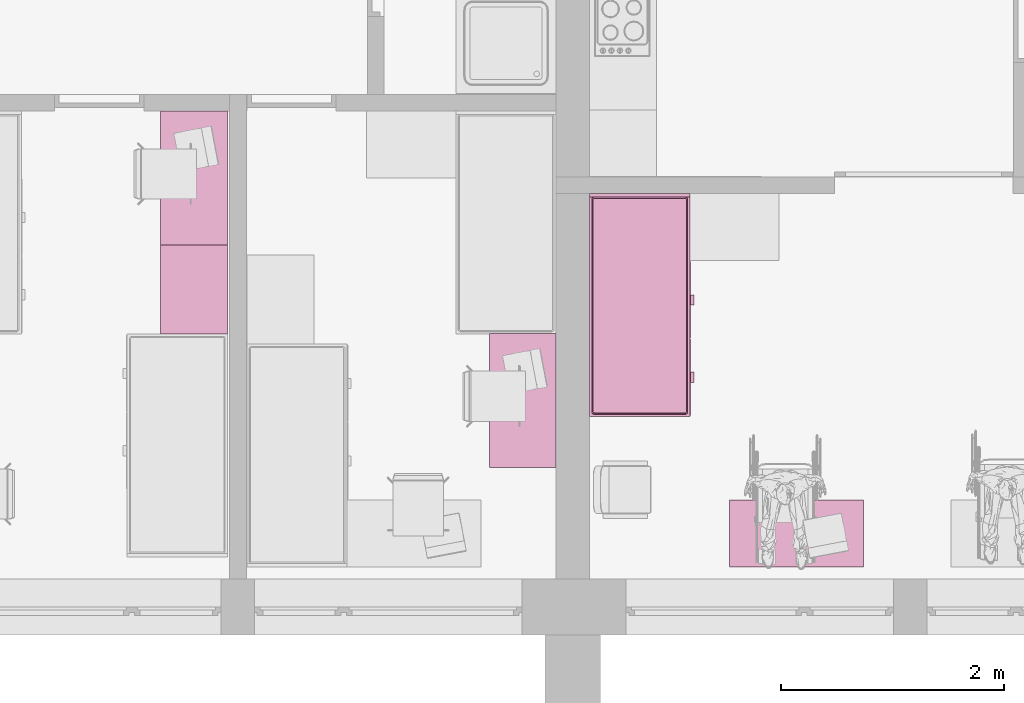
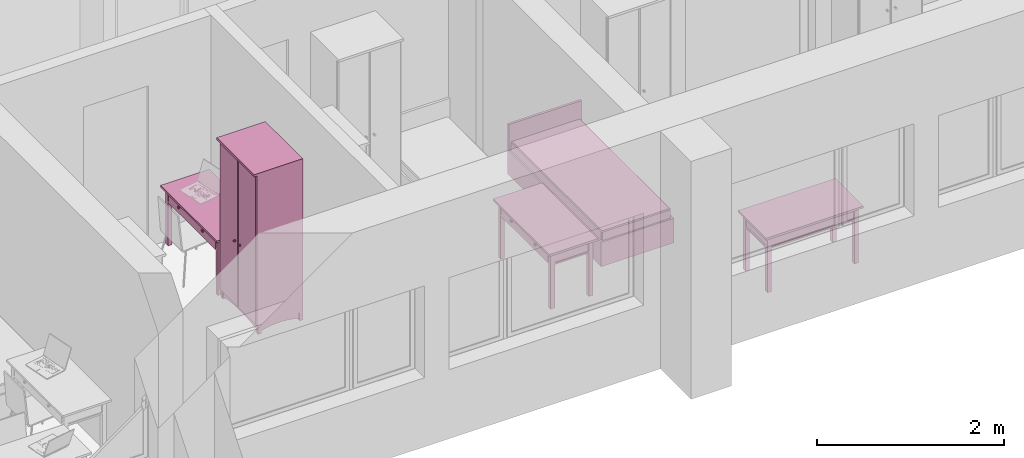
# One storey, part 117 of 172: 5 furnishings.
"""IFC2X3 building model written with IfcOpenShell, lengths in millimetres."""

from ifc_helpers import new_model, entity, si_unit, converted_unit, money_unit, direction, frame, origin_with_axes, place, context, subcontext, project, spatial, faceted_brep, source, transform, mapped, material, material_list, type_object, element, save


model = new_model("IFC2X3")

# Units and contexts
model_context = context("Model", 3, precision=1e-05, world=origin_with_axes(), true_north=direction((0.0, 1.0)))
body_context = subcontext(model_context, "Body", "Model", "MODEL_VIEW")
ifc_project = project(units=[si_unit("LENGTHUNIT", "METRE", prefix="MILLI"), si_unit("AREAUNIT", "SQUARE_METRE"), si_unit("VOLUMEUNIT", "CUBIC_METRE"), converted_unit("PLANEANGLEUNIT", "DEGREE", entity("IfcPlaneAngleMeasure", 0.0174532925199), si_unit("PLANEANGLEUNIT", "RADIAN"), dimensions=[0, 0, 0, 0, 0, 0, 0]), si_unit("SOLIDANGLEUNIT", "STERADIAN"), money_unit("USD"), converted_unit("TIMEUNIT", "Year", entity("IfcTimeMeasure", 31556926.0), si_unit("TIMEUNIT", "SECOND"), dimensions=[0, 0, 0, 0, 0, 0, 0]), si_unit("MASSUNIT", "GRAM"), si_unit("THERMODYNAMICTEMPERATUREUNIT", "DEGREE_CELSIUS"), si_unit("LUMINOUSINTENSITYUNIT", "LUMEN")], contexts=[model_context])

# Site, building, storey
site_placement = place(None, origin_with_axes())
site = spatial("IfcSite", under=ifc_project, at=site_placement, Name="Site", CompositionType="ELEMENT")
building_placement = place(site_placement, origin_with_axes())
building = spatial("IfcBuilding", under=site, at=building_placement, Name="Building", CompositionType="ELEMENT")
storey_placement = place(building_placement, frame((0.0, 0.0, 3200.0), z_axis=(0.0, 0.0, 1.0), x_axis=(1.0, 0.0, 0.0)))
storey = spatial("IfcBuildingStorey", under=building, at=storey_placement, Name="3KORRUS", CompositionType="ELEMENT", Elevation=3200.0)

# Furnishings
ifc_material = material(Name="Background")
ifc_material_list = material_list([ifc_material])
furnishing_element_type_1 = type_object("IfcFurnishingElementType", Name="Bed 19")
shared_shape_1 = source(origin_with_axes(), body_context, "Body", "Brep", [
    faceted_brep([(900.0, 1970.0, 0.0), (0.0, 1970.0, 0.0), (0.0, 2000.0, 0.0), (900.0, 2000.0, 0.0), (900.0, 1970.0, 660.0), (0.0, 1970.0, 660.0), (0.0, 2000.0, 660.0), (900.0, 2000.0, 660.0)], [[[0, 1, 2, 3]], [[1, 0, 4, 5]], [[2, 1, 5, 6]], [[3, 2, 6, 7]], [[0, 3, 7, 4]], [[5, 4, 7, 6]]]),
    faceted_brep([(900.0, 0.0, 0.0), (0.0, 0.0, 0.0), (0.0, 1970.0, 0.0), (900.0, 1970.0, 0.0), (900.0, 0.0, 320.0), (0.0, 0.0, 320.0), (0.0, 1970.0, 320.0), (900.0, 1970.0, 320.0)], [[[0, 1, 2, 3]], [[1, 0, 4, 5]], [[2, 1, 5, 6]], [[3, 2, 6, 7]], [[0, 3, 7, 4]], [[5, 4, 7, 6]]]),
    faceted_brep([(905.0, 10.0, 30.0), (900.0, 10.0, 30.0), (900.0, 695.0, 30.0), (905.0, 695.0, 30.0), (905.0, 10.0, 290.0), (900.0, 10.0, 290.0), (900.0, 695.0, 290.0), (905.0, 695.0, 290.0)], [[[0, 1, 2, 3]], [[1, 0, 4, 5]], [[2, 1, 5, 6]], [[3, 2, 6, 7]], [[0, 3, 7, 4]], [[5, 4, 7, 6]]]),
    faceted_brep([(935.0, 307.5, 150.0), (905.0, 307.5, 150.0), (905.0, 397.5, 150.0), (935.0, 397.5, 150.0), (935.0, 307.5, 170.0), (905.0, 307.5, 170.0), (905.0, 397.5, 170.0), (935.0, 397.5, 170.0)], [[[0, 1, 2, 3]], [[1, 0, 4, 5]], [[2, 1, 5, 6]], [[3, 2, 6, 7]], [[0, 3, 7, 4]], [[5, 4, 7, 6]]]),
    faceted_brep([(905.0, 705.0, 30.0), (900.0, 705.0, 30.0), (900.0, 1390.0, 30.0), (905.0, 1390.0, 30.0), (905.0, 705.0, 290.0), (900.0, 705.0, 290.0), (900.0, 1390.0, 290.0), (905.0, 1390.0, 290.0)], [[[0, 1, 2, 3]], [[1, 0, 4, 5]], [[2, 1, 5, 6]], [[3, 2, 6, 7]], [[0, 3, 7, 4]], [[5, 4, 7, 6]]]),
    faceted_brep([(935.0, 1002.5, 150.0), (905.0, 1002.5, 150.0), (905.0, 1092.5, 150.0), (935.0, 1092.5, 150.0), (935.0, 1002.5, 170.0), (905.0, 1002.5, 170.0), (905.0, 1092.5, 170.0), (935.0, 1092.5, 170.0)], [[[0, 1, 2, 3]], [[1, 0, 4, 5]], [[2, 1, 5, 6]], [[3, 2, 6, 7]], [[0, 3, 7, 4]], [[5, 4, 7, 6]]]),
    faceted_brep([(20.0, 40.0, 350.0), (20.0, 1950.0, 350.0), (21.522, 1957.654, 350.0), (25.858, 1964.142, 350.0), (32.346, 1968.478, 350.0), (40.0, 1970.0, 350.0), (860.0, 1970.0, 350.0), (867.654, 1968.478, 350.0), (874.142, 1964.142, 350.0), (878.478, 1957.654, 350.0), (880.0, 1950.0, 350.0), (880.0, 40.0, 350.0), (878.478, 32.346, 350.0), (874.142, 25.858, 350.0), (867.654, 21.522, 350.0), (860.0, 20.0, 350.0), (40.0, 20.0, 350.0), (32.346, 21.522, 350.0), (25.858, 25.858, 350.0), (21.522, 32.346, 350.0), (20.0, 40.0, 420.0), (20.0, 1950.0, 420.0), (21.522, 1957.654, 420.0), (25.858, 1964.142, 420.0), (32.346, 1968.478, 420.0), (40.0, 1970.0, 420.0), (860.0, 1970.0, 420.0), (867.654, 1968.478, 420.0), (874.142, 1964.142, 420.0), (878.478, 1957.654, 420.0), (880.0, 1950.0, 420.0), (880.0, 40.0, 420.0), (878.478, 32.346, 420.0), (874.142, 25.858, 420.0), (867.654, 21.522, 420.0), (860.0, 20.0, 420.0), (40.0, 20.0, 420.0), (32.346, 21.522, 420.0), (25.858, 25.858, 420.0), (21.522, 32.346, 420.0), (21.522, 40.15, 427.654), (21.522, 1949.85, 427.654), (22.956, 1957.06, 427.654), (26.955, 1963.045, 427.654), (32.94, 1967.044, 427.654), (40.15, 1968.478, 427.654), (859.85, 1968.478, 427.654), (867.06, 1967.044, 427.654), (873.045, 1963.045, 427.654), (877.044, 1957.06, 427.654), (878.478, 1949.85, 427.654), (878.478, 40.15, 427.654), (877.044, 32.94, 427.654), (873.045, 26.955, 427.654), (867.06, 22.956, 427.654), (859.85, 21.522, 427.654), (40.15, 21.522, 427.654), (32.94, 22.956, 427.654), (26.955, 26.955, 427.654), (22.956, 32.94, 427.654), (32.346, 41.216, 438.478), (32.346, 1948.784, 438.478), (33.152, 1952.836, 438.478), (34.759, 1955.241, 438.478), (37.164, 1956.848, 438.478), (41.216, 1957.654, 438.478), (858.784, 1957.654, 438.478), (862.836, 1956.848, 438.478), (865.241, 1955.241, 438.478), (866.848, 1952.836, 438.478), (867.654, 1948.784, 438.478), (867.654, 41.216, 438.478), (866.848, 37.164, 438.478), (865.241, 34.759, 438.478), (862.836, 33.152, 438.478), (858.784, 32.346, 438.478), (41.216, 32.346, 438.478), (37.164, 33.152, 438.478), (34.759, 34.759, 438.478), (33.152, 37.164, 438.478), (40.0, 41.97, 440.0), (40.0, 1948.03, 440.0), (40.327, 1949.673, 440.0), (40.0, 1950.0, 439.924), (41.97, 1950.0, 440.0), (858.03, 1950.0, 440.0), (859.673, 1949.673, 440.0), (860.0, 1950.0, 439.924), (860.0, 1948.03, 440.0), (860.0, 41.97, 440.0), (859.673, 40.327, 440.0), (860.0, 40.0, 439.924), (858.03, 40.0, 440.0), (41.97, 40.0, 440.0), (40.327, 40.327, 440.0), (40.0, 40.0, 439.924)], [[[0, 1, 2, 3, 4, 5, 6, 7, 8, 9, 10, 11, 12, 13, 14, 15, 16, 17, 18, 19]], [[1, 0, 20, 21]], [[2, 1, 21, 22]], [[3, 2, 22, 23]], [[4, 3, 23, 24]], [[5, 4, 24, 25]], [[6, 5, 25, 26]], [[7, 6, 26, 27]], [[8, 7, 27, 28]], [[9, 8, 28, 29]], [[10, 9, 29, 30]], [[11, 10, 30, 31]], [[12, 11, 31, 32]], [[13, 12, 32, 33]], [[14, 13, 33, 34]], [[15, 14, 34, 35]], [[16, 15, 35, 36]], [[17, 16, 36, 37]], [[18, 17, 37, 38]], [[19, 18, 38, 39]], [[0, 19, 39, 20]], [[21, 20, 40, 41]], [[22, 21, 41, 42]], [[23, 22, 42, 43]], [[24, 23, 43, 44]], [[25, 24, 44, 45]], [[26, 25, 45, 46]], [[27, 26, 46, 47]], [[28, 27, 47, 48]], [[29, 28, 48, 49]], [[30, 29, 49, 50]], [[31, 30, 50, 51]], [[32, 31, 51, 52]], [[33, 32, 52, 53]], [[34, 33, 53, 54]], [[35, 34, 54, 55]], [[36, 35, 55, 56]], [[37, 36, 56, 57]], [[38, 37, 57, 58]], [[39, 38, 58, 59]], [[20, 39, 59, 40]], [[41, 40, 60, 61]], [[42, 41, 61, 62]], [[43, 42, 62, 63]], [[44, 43, 63, 64]], [[45, 44, 64, 65]], [[46, 45, 65, 66]], [[47, 46, 66, 67]], [[48, 47, 67, 68]], [[49, 48, 68, 69]], [[50, 49, 69, 70]], [[51, 50, 70, 71]], [[52, 51, 71, 72]], [[53, 52, 72, 73]], [[54, 53, 73, 74]], [[55, 54, 74, 75]], [[56, 55, 75, 76]], [[57, 56, 76, 77]], [[58, 57, 77, 78]], [[59, 58, 78, 79]], [[40, 59, 79, 60]], [[61, 60, 80, 81]], [[62, 61, 81, 82, 83]], [[63, 62, 83]], [[64, 63, 83]], [[65, 64, 83, 82, 84]], [[66, 65, 84, 85]], [[67, 66, 85, 86, 87]], [[68, 67, 87]], [[69, 68, 87]], [[70, 69, 87, 86, 88]], [[71, 70, 88, 89]], [[72, 71, 89, 90, 91]], [[73, 72, 91]], [[74, 73, 91]], [[75, 74, 91, 90, 92]], [[76, 75, 92, 93]], [[77, 76, 93, 94, 95]], [[78, 77, 95]], [[79, 78, 95]], [[60, 79, 95, 94, 80]], [[81, 80, 94, 93, 92, 90, 89, 88, 86, 85, 84, 82]]]),
    faceted_brep([(20.0, 40.0, 350.0), (21.522, 32.346, 350.0), (25.858, 25.858, 350.0), (32.346, 21.522, 350.0), (40.0, 20.0, 350.0), (860.0, 20.0, 350.0), (867.654, 21.522, 350.0), (874.142, 25.858, 350.0), (878.478, 32.346, 350.0), (880.0, 40.0, 350.0), (880.0, 1950.0, 350.0), (878.478, 1957.654, 350.0), (874.142, 1964.142, 350.0), (867.654, 1968.478, 350.0), (860.0, 1970.0, 350.0), (40.0, 1970.0, 350.0), (32.346, 1968.478, 350.0), (25.858, 1964.142, 350.0), (21.522, 1957.654, 350.0), (20.0, 1950.0, 350.0), (20.0, 40.0, 320.0), (21.522, 32.346, 320.0), (25.858, 25.858, 320.0), (32.346, 21.522, 320.0), (40.0, 20.0, 320.0), (860.0, 20.0, 320.0), (867.654, 21.522, 320.0), (874.142, 25.858, 320.0), (878.478, 32.346, 320.0), (880.0, 40.0, 320.0), (880.0, 1950.0, 320.0), (878.478, 1957.654, 320.0), (874.142, 1964.142, 320.0), (867.654, 1968.478, 320.0), (860.0, 1970.0, 320.0), (40.0, 1970.0, 320.0), (32.346, 1968.478, 320.0), (25.858, 1964.142, 320.0), (21.522, 1957.654, 320.0), (20.0, 1950.0, 320.0)], [[[0, 1, 2, 3, 4, 5, 6, 7, 8, 9, 10, 11, 12, 13, 14, 15, 16, 17, 18, 19]], [[0, 20, 21, 1]], [[1, 21, 22, 2]], [[2, 22, 23, 3]], [[3, 23, 24, 4]], [[4, 24, 25, 5]], [[5, 25, 26, 6]], [[6, 26, 27, 7]], [[7, 27, 28, 8]], [[8, 28, 29, 9]], [[9, 29, 30, 10]], [[10, 30, 31, 11]], [[11, 31, 32, 12]], [[12, 32, 33, 13]], [[13, 33, 34, 14]], [[14, 34, 35, 15]], [[15, 35, 36, 16]], [[16, 36, 37, 17]], [[17, 37, 38, 18]], [[18, 38, 39, 19]], [[19, 39, 20, 0]], [[20, 39, 38, 37, 36, 35, 34, 33, 32, 31, 30, 29, 28, 27, 26, 25, 24, 23, 22, 21]]]),
])
furnishing_1_placement = place(storey_placement, frame((-17990.2967033, -18179.7357921, 0.0), z_axis=(0.0, 0.0, 1.0), x_axis=(1.0, 0.0, 0.0)))
element("IfcFurnishingElement", 1, at=furnishing_1_placement, inside=storey, type_object=furnishing_element_type_1, material=ifc_material_list, Name="FU - 013", context=body_context, shape_type="MappedRepresentation", body=[
    mapped(shared_shape_1, transform((0.0, 0.0, 0.0))),
])
furnishing_element_type_2 = type_object("IfcFurnishingElementType", Name="Cupboard 19")
shared_shape_2 = source(origin_with_axes(), body_context, "Body", "Brep", [
    faceted_brep([(780.0, 600.0, 120.0), (780.0, 600.0, 2050.0), (780.0, 580.0, 2050.0), (780.0, 580.0, 120.0), (20.0, 600.0, 120.0), (20.0, 600.0, 2050.0), (20.0, 580.0, 2050.0), (20.0, 580.0, 120.0)], [[[0, 1, 2, 3]], [[4, 5, 1, 0]], [[1, 5, 6, 2]], [[3, 2, 6, 7]], [[0, 3, 7, 4]], [[7, 6, 5, 4]]]),
    faceted_brep([(0.0, 50.0, 100.0), (0.0, 600.0, 100.0), (20.0, 600.0, 100.0), (20.0, 50.0, 100.0), (0.0, 50.0, 2070.0), (0.0, 600.0, 2070.0), (20.0, 600.0, 2070.0), (20.0, 50.0, 2070.0)], [[[0, 1, 2, 3]], [[0, 4, 5, 1]], [[1, 5, 6, 2]], [[2, 6, 7, 3]], [[3, 7, 4, 0]], [[7, 6, 5, 4]]]),
    faceted_brep([(780.0, 50.0, 100.0), (780.0, 600.0, 100.0), (800.0, 600.0, 100.0), (800.0, 50.0, 100.0), (780.0, 50.0, 2070.0), (780.0, 600.0, 2070.0), (800.0, 600.0, 2070.0), (800.0, 50.0, 2070.0)], [[[0, 1, 2, 3]], [[0, 4, 5, 1]], [[1, 5, 6, 2]], [[2, 6, 7, 3]], [[3, 7, 4, 0]], [[7, 6, 5, 4]]]),
    faceted_brep([(20.0, 50.0, 100.0), (20.0, 600.0, 100.0), (780.0, 600.0, 100.0), (780.0, 50.0, 100.0), (20.0, 50.0, 120.0), (20.0, 600.0, 120.0), (780.0, 600.0, 120.0), (780.0, 50.0, 120.0)], [[[0, 1, 2, 3]], [[0, 4, 5, 1]], [[1, 5, 6, 2]], [[2, 6, 7, 3]], [[3, 7, 4, 0]], [[7, 6, 5, 4]]]),
    faceted_brep([(20.0, 50.0, 2050.0), (20.0, 600.0, 2050.0), (780.0, 600.0, 2050.0), (780.0, 50.0, 2050.0), (20.0, 50.0, 2070.0), (20.0, 600.0, 2070.0), (780.0, 600.0, 2070.0), (780.0, 50.0, 2070.0)], [[[0, 1, 2, 3]], [[0, 4, 5, 1]], [[1, 5, 6, 2]], [[2, 6, 7, 3]], [[3, 7, 4, 0]], [[7, 6, 5, 4]]]),
    faceted_brep([(0.0, 600.0, 2070.0), (0.0, 0.0, 2070.0), (0.0, 0.0, 2100.0), (0.0, 600.0, 2100.0), (800.0, 600.0, 2070.0), (800.0, 0.0, 2070.0), (800.0, 0.0, 2100.0), (800.0, 600.0, 2100.0)], [[[0, 1, 2, 3]], [[0, 4, 5, 1]], [[1, 5, 6, 2]], [[3, 2, 6, 7]], [[4, 0, 3, 7]], [[5, 4, 7, 6]]]),
    faceted_brep([(760.0, 590.0, 25.0), (760.0, 570.0, 25.0), (640.962, 570.0, 45.8), (640.962, 590.0, 45.8), (760.0, 590.0, 100.0), (760.0, 570.0, 100.0), (40.0, 570.0, 100.0), (40.0, 570.0, 25.0), (159.038, 570.0, 45.8), (279.23, 570.0, 58.32), (400.0, 570.0, 62.5), (520.77, 570.0, 58.32), (520.77, 590.0, 58.32), (400.0, 590.0, 62.5), (279.23, 590.0, 58.32), (159.038, 590.0, 45.8), (40.0, 590.0, 25.0), (40.0, 590.0, 100.0)], [[[0, 1, 2, 3]], [[4, 5, 1, 0]], [[1, 5, 6, 7, 8, 9, 10, 11, 2]], [[3, 2, 11, 12]], [[0, 3, 12, 13, 14, 15, 16, 17, 4]], [[17, 6, 5, 4]], [[16, 7, 6, 17]], [[15, 8, 7, 16]], [[14, 9, 8, 15]], [[13, 10, 9, 14]], [[12, 11, 10, 13]]]),
    faceted_brep([(760.0, 80.0, 25.0), (760.0, 60.0, 25.0), (640.962, 60.0, 45.8), (640.962, 80.0, 45.8), (760.0, 80.0, 100.0), (760.0, 60.0, 100.0), (40.0, 60.0, 100.0), (40.0, 60.0, 25.0), (159.038, 60.0, 45.8), (279.23, 60.0, 58.32), (400.0, 60.0, 62.5), (520.77, 60.0, 58.32), (520.77, 80.0, 58.32), (400.0, 80.0, 62.5), (279.23, 80.0, 58.32), (159.038, 80.0, 45.8), (40.0, 80.0, 25.0), (40.0, 80.0, 100.0)], [[[0, 1, 2, 3]], [[4, 5, 1, 0]], [[1, 5, 6, 7, 8, 9, 10, 11, 2]], [[3, 2, 11, 12]], [[0, 3, 12, 13, 14, 15, 16, 17, 4]], [[17, 6, 5, 4]], [[16, 7, 6, 17]], [[15, 8, 7, 16]], [[14, 9, 8, 15]], [[13, 10, 9, 14]], [[12, 11, 10, 13]]]),
    faceted_brep([(790.0, 90.0, 25.0), (770.0, 90.0, 25.0), (770.0, 141.266, 38.072), (790.0, 141.266, 38.072), (790.0, 90.0, 100.0), (770.0, 90.0, 100.0), (770.0, 560.0, 100.0), (770.0, 560.0, 25.0), (770.0, 508.734, 38.072), (770.0, 456.752, 47.92), (770.0, 404.257, 54.508), (770.0, 351.453, 57.808), (770.0, 298.547, 57.808), (770.0, 245.743, 54.508), (770.0, 193.248, 47.92), (790.0, 193.248, 47.92), (790.0, 245.743, 54.508), (790.0, 298.547, 57.808), (790.0, 351.453, 57.808), (790.0, 404.257, 54.508), (790.0, 456.752, 47.92), (790.0, 508.734, 38.072), (790.0, 560.0, 25.0), (790.0, 560.0, 100.0)], [[[0, 1, 2, 3]], [[4, 5, 1, 0]], [[1, 5, 6, 7, 8, 9, 10, 11, 12, 13, 14, 2]], [[3, 2, 14, 15]], [[0, 3, 15, 16, 17, 18, 19, 20, 21, 22, 23, 4]], [[23, 6, 5, 4]], [[22, 7, 6, 23]], [[21, 8, 7, 22]], [[20, 9, 8, 21]], [[19, 10, 9, 20]], [[18, 11, 10, 19]], [[17, 12, 11, 18]], [[16, 13, 12, 17]], [[15, 14, 13, 16]]]),
    faceted_brep([(30.0, 90.0, 25.0), (10.0, 90.0, 25.0), (10.0, 141.266, 38.072), (30.0, 141.266, 38.072), (30.0, 90.0, 100.0), (10.0, 90.0, 100.0), (10.0, 560.0, 100.0), (10.0, 560.0, 25.0), (10.0, 508.734, 38.072), (10.0, 456.752, 47.92), (10.0, 404.257, 54.508), (10.0, 351.453, 57.808), (10.0, 298.547, 57.808), (10.0, 245.743, 54.508), (10.0, 193.248, 47.92), (30.0, 193.248, 47.92), (30.0, 245.743, 54.508), (30.0, 298.547, 57.808), (30.0, 351.453, 57.808), (30.0, 404.257, 54.508), (30.0, 456.752, 47.92), (30.0, 508.734, 38.072), (30.0, 560.0, 25.0), (30.0, 560.0, 100.0)], [[[0, 1, 2, 3]], [[4, 5, 1, 0]], [[1, 5, 6, 7, 8, 9, 10, 11, 12, 13, 14, 2]], [[3, 2, 14, 15]], [[0, 3, 15, 16, 17, 18, 19, 20, 21, 22, 23, 4]], [[23, 6, 5, 4]], [[22, 7, 6, 23]], [[21, 8, 7, 22]], [[20, 9, 8, 21]], [[19, 10, 9, 20]], [[18, 11, 10, 19]], [[17, 12, 11, 18]], [[16, 13, 12, 17]], [[15, 14, 13, 16]]]),
    faceted_brep([(760.0, 560.0, 0.0), (760.0, 560.0, 100.0), (760.0, 600.0, 100.0), (760.0, 600.0, 0.0), (800.0, 560.0, 0.0), (800.0, 560.0, 100.0), (800.0, 600.0, 100.0), (800.0, 600.0, 0.0)], [[[0, 1, 2, 3]], [[4, 5, 1, 0]], [[1, 5, 6, 2]], [[3, 2, 6, 7]], [[0, 3, 7, 4]], [[7, 6, 5, 4]]]),
    faceted_brep([(0.0, 560.0, 0.0), (0.0, 560.0, 100.0), (0.0, 600.0, 100.0), (0.0, 600.0, 0.0), (40.0, 560.0, 0.0), (40.0, 560.0, 100.0), (40.0, 600.0, 100.0), (40.0, 600.0, 0.0)], [[[0, 1, 2, 3]], [[4, 5, 1, 0]], [[1, 5, 6, 2]], [[3, 2, 6, 7]], [[0, 3, 7, 4]], [[7, 6, 5, 4]]]),
    faceted_brep([(760.0, 50.0, 0.0), (760.0, 50.0, 100.0), (760.0, 90.0, 100.0), (760.0, 90.0, 0.0), (800.0, 50.0, 0.0), (800.0, 50.0, 100.0), (800.0, 90.0, 100.0), (800.0, 90.0, 0.0)], [[[0, 1, 2, 3]], [[4, 5, 1, 0]], [[1, 5, 6, 2]], [[3, 2, 6, 7]], [[0, 3, 7, 4]], [[7, 6, 5, 4]]]),
    faceted_brep([(0.0, 50.0, 0.0), (0.0, 50.0, 100.0), (0.0, 90.0, 100.0), (0.0, 90.0, 0.0), (40.0, 50.0, 0.0), (40.0, 50.0, 100.0), (40.0, 90.0, 100.0), (40.0, 90.0, 0.0)], [[[0, 1, 2, 3]], [[4, 5, 1, 0]], [[1, 5, 6, 2]], [[3, 2, 6, 7]], [[0, 3, 7, 4]], [[7, 6, 5, 4]]]),
    faceted_brep([(780.0, 580.0, 587.5), (780.0, 580.0, 607.5), (780.0, 50.0, 607.5), (780.0, 50.0, 587.5), (20.0, 580.0, 587.5), (20.0, 580.0, 607.5), (20.0, 50.0, 607.5), (20.0, 50.0, 587.5)], [[[0, 1, 2, 3]], [[4, 5, 1, 0]], [[1, 5, 6, 2]], [[3, 2, 6, 7]], [[0, 3, 7, 4]], [[7, 6, 5, 4]]]),
    faceted_brep([(780.0, 580.0, 1075.0), (780.0, 580.0, 1095.0), (780.0, 50.0, 1095.0), (780.0, 50.0, 1075.0), (20.0, 580.0, 1075.0), (20.0, 580.0, 1095.0), (20.0, 50.0, 1095.0), (20.0, 50.0, 1075.0)], [[[0, 1, 2, 3]], [[4, 5, 1, 0]], [[1, 5, 6, 2]], [[3, 2, 6, 7]], [[0, 3, 7, 4]], [[7, 6, 5, 4]]]),
    faceted_brep([(780.0, 580.0, 1562.5), (780.0, 580.0, 1582.5), (780.0, 50.0, 1582.5), (780.0, 50.0, 1562.5), (20.0, 580.0, 1562.5), (20.0, 580.0, 1582.5), (20.0, 50.0, 1582.5), (20.0, 50.0, 1562.5)], [[[0, 1, 2, 3]], [[4, 5, 1, 0]], [[1, 5, 6, 2]], [[3, 2, 6, 7]], [[0, 3, 7, 4]], [[7, 6, 5, 4]]]),
    faceted_brep([(789.5, 50.0, 110.5), (400.5, 50.0, 110.5), (400.5, 50.0, 2059.5), (789.5, 50.0, 2059.5), (789.5, 40.0, 110.5), (400.5, 40.0, 110.5), (400.5, 40.0, 2059.5), (789.5, 40.0, 2059.5), (779.5, 30.0, 120.5), (410.5, 30.0, 120.5), (410.5, 30.0, 2049.5), (779.5, 30.0, 2049.5)], [[[0, 1, 2, 3]], [[0, 4, 5, 1]], [[1, 5, 6, 2]], [[2, 6, 7, 3]], [[3, 7, 4, 0]], [[4, 8, 9, 5]], [[5, 9, 10, 6]], [[6, 10, 11, 7]], [[7, 11, 8, 4]], [[10, 9, 8, 11]]]),
    faceted_brep([(399.5, 50.0, 110.5), (10.5, 50.0, 110.5), (10.5, 50.0, 2059.5), (399.5, 50.0, 2059.5), (399.5, 40.0, 110.5), (10.5, 40.0, 110.5), (10.5, 40.0, 2059.5), (399.5, 40.0, 2059.5), (389.5, 30.0, 120.5), (20.5, 30.0, 120.5), (20.5, 30.0, 2049.5), (389.5, 30.0, 2049.5)], [[[0, 1, 2, 3]], [[0, 4, 5, 1]], [[1, 5, 6, 2]], [[2, 6, 7, 3]], [[3, 7, 4, 0]], [[4, 8, 9, 5]], [[5, 9, 10, 6]], [[6, 10, 11, 7]], [[7, 11, 8, 4]], [[10, 9, 8, 11]]]),
    faceted_brep([(339.608, 30.0, 954.0), (338.0, 30.0, 960.0), (339.608, 30.0, 966.0), (344.0, 30.0, 970.392), (350.0, 30.0, 972.0), (356.0, 30.0, 970.392), (360.392, 30.0, 966.0), (362.0, 30.0, 960.0), (360.392, 30.0, 954.0), (356.0, 30.0, 949.608), (350.0, 30.0, 948.0), (344.0, 30.0, 949.608), (339.608, 5.0, 954.0), (338.0, 5.0, 960.0), (339.608, 5.0, 966.0), (344.0, 5.0, 970.392), (350.0, 5.0, 972.0), (356.0, 5.0, 970.392), (360.392, 5.0, 966.0), (362.0, 5.0, 960.0), (360.392, 5.0, 954.0), (356.0, 5.0, 949.608), (350.0, 5.0, 948.0), (344.0, 5.0, 949.608)], [[[0, 1, 2, 3, 4, 5, 6, 7, 8, 9, 10, 11]], [[0, 12, 13, 1]], [[1, 13, 14, 2]], [[2, 14, 15, 3]], [[3, 15, 16, 4]], [[4, 16, 17, 5]], [[5, 17, 18, 6]], [[6, 18, 19, 7]], [[7, 19, 20, 8]], [[8, 20, 21, 9]], [[9, 21, 22, 10]], [[10, 22, 23, 11]], [[11, 23, 12, 0]], [[12, 23, 22, 21, 20, 19, 18, 17, 16, 15, 14, 13]]]),
    faceted_brep([(460.392, 30.0, 954.0), (456.0, 30.0, 949.608), (450.0, 30.0, 948.0), (444.0, 30.0, 949.608), (439.608, 30.0, 954.0), (438.0, 30.0, 960.0), (439.608, 30.0, 966.0), (444.0, 30.0, 970.392), (450.0, 30.0, 972.0), (456.0, 30.0, 970.392), (460.392, 30.0, 966.0), (462.0, 30.0, 960.0), (460.392, 5.0, 954.0), (456.0, 5.0, 949.608), (450.0, 5.0, 948.0), (444.0, 5.0, 949.608), (439.608, 5.0, 954.0), (438.0, 5.0, 960.0), (439.608, 5.0, 966.0), (444.0, 5.0, 970.392), (450.0, 5.0, 972.0), (456.0, 5.0, 970.392), (460.392, 5.0, 966.0), (462.0, 5.0, 960.0)], [[[0, 1, 2, 3, 4, 5, 6, 7, 8, 9, 10, 11]], [[1, 0, 12, 13]], [[2, 1, 13, 14]], [[3, 2, 14, 15]], [[4, 3, 15, 16]], [[5, 4, 16, 17]], [[6, 5, 17, 18]], [[7, 6, 18, 19]], [[8, 7, 19, 20]], [[9, 8, 20, 21]], [[10, 9, 21, 22]], [[11, 10, 22, 23]], [[0, 11, 23, 12]], [[12, 23, 22, 21, 20, 19, 18, 17, 16, 15, 14, 13]]]),
])
furnishing_2_placement = place(storey_placement, frame((-21840.2967033, -16639.2398994, 0.0), z_axis=(0.0, 0.0, 1.0), x_axis=(0.0, -1.0, 0.0)))
element("IfcFurnishingElement", 2, at=furnishing_2_placement, inside=storey, type_object=furnishing_element_type_2, material=ifc_material_list, Name="FU - 014", context=body_context, shape_type="MappedRepresentation", body=[
    mapped(shared_shape_2, transform((0.0, 0.0, 0.0))),
])
furnishing_element_type_3 = type_object("IfcFurnishingElementType", Name="Rectangular Table 01 19")
shared_shape_3 = source(origin_with_axes(), body_context, "Body", "Brep", [
    faceted_brep([(90.0, 40.0, 0.0), (40.0, 40.0, 0.0), (40.0, 90.0, 0.0), (90.0, 90.0, 0.0), (90.0, 40.0, 725.0), (40.0, 40.0, 725.0), (40.0, 90.0, 725.0), (90.0, 90.0, 725.0)], [[[0, 1, 2, 3]], [[1, 0, 4, 5]], [[2, 1, 5, 6]], [[3, 2, 6, 7]], [[0, 3, 7, 4]], [[5, 4, 7, 6]]]),
    faceted_brep([(1160.0, 40.0, 0.0), (1110.0, 40.0, 0.0), (1110.0, 90.0, 0.0), (1160.0, 90.0, 0.0), (1160.0, 40.0, 725.0), (1110.0, 40.0, 725.0), (1110.0, 90.0, 725.0), (1160.0, 90.0, 725.0)], [[[0, 1, 2, 3]], [[1, 0, 4, 5]], [[2, 1, 5, 6]], [[3, 2, 6, 7]], [[0, 3, 7, 4]], [[5, 4, 7, 6]]]),
    faceted_brep([(90.0, 510.0, 0.0), (40.0, 510.0, 0.0), (40.0, 560.0, 0.0), (90.0, 560.0, 0.0), (90.0, 510.0, 725.0), (40.0, 510.0, 725.0), (40.0, 560.0, 725.0), (90.0, 560.0, 725.0)], [[[0, 1, 2, 3]], [[1, 0, 4, 5]], [[2, 1, 5, 6]], [[3, 2, 6, 7]], [[0, 3, 7, 4]], [[5, 4, 7, 6]]]),
    faceted_brep([(1160.0, 510.0, 0.0), (1110.0, 510.0, 0.0), (1110.0, 560.0, 0.0), (1160.0, 560.0, 0.0), (1160.0, 510.0, 725.0), (1110.0, 510.0, 725.0), (1110.0, 560.0, 725.0), (1160.0, 560.0, 725.0)], [[[0, 1, 2, 3]], [[1, 0, 4, 5]], [[2, 1, 5, 6]], [[3, 2, 6, 7]], [[0, 3, 7, 4]], [[5, 4, 7, 6]]]),
    faceted_brep([(1160.0, 40.0, 565.0), (40.0, 40.0, 565.0), (40.0, 560.0, 565.0), (1160.0, 560.0, 565.0), (1160.0, 40.0, 585.0), (40.0, 40.0, 585.0), (40.0, 560.0, 585.0), (1160.0, 560.0, 585.0)], [[[0, 1, 2, 3]], [[1, 0, 4, 5]], [[2, 1, 5, 6]], [[3, 2, 6, 7]], [[0, 3, 7, 4]], [[5, 4, 7, 6]]]),
    faceted_brep([(1110.0, 52.5, 585.0), (90.0, 52.5, 585.0), (90.0, 77.5, 585.0), (1110.0, 77.5, 585.0), (1110.0, 52.5, 745.0), (90.0, 52.5, 745.0), (90.0, 77.5, 745.0), (1110.0, 77.5, 745.0)], [[[0, 1, 2, 3]], [[1, 0, 4, 5]], [[2, 1, 5, 6]], [[3, 2, 6, 7]], [[0, 3, 7, 4]], [[5, 4, 7, 6]]]),
    faceted_brep([(77.5, 90.0, 585.0), (52.5, 90.0, 585.0), (52.5, 510.0, 585.0), (77.5, 510.0, 585.0), (77.5, 90.0, 745.0), (52.5, 90.0, 745.0), (52.5, 510.0, 745.0), (77.5, 510.0, 745.0)], [[[0, 1, 2, 3]], [[1, 0, 4, 5]], [[2, 1, 5, 6]], [[3, 2, 6, 7]], [[0, 3, 7, 4]], [[5, 4, 7, 6]]]),
    faceted_brep([(90.0, 547.5, 585.0), (1110.0, 547.5, 585.0), (1110.0, 522.5, 585.0), (90.0, 522.5, 585.0), (90.0, 547.5, 745.0), (1110.0, 547.5, 745.0), (1110.0, 522.5, 745.0), (90.0, 522.5, 745.0)], [[[0, 1, 2, 3]], [[1, 0, 4, 5]], [[2, 1, 5, 6]], [[3, 2, 6, 7]], [[0, 3, 7, 4]], [[5, 4, 7, 6]]]),
    faceted_brep([(1122.5, 510.0, 585.0), (1147.5, 510.0, 585.0), (1147.5, 90.0, 585.0), (1122.5, 90.0, 585.0), (1122.5, 510.0, 745.0), (1147.5, 510.0, 745.0), (1147.5, 90.0, 745.0), (1122.5, 90.0, 745.0)], [[[0, 1, 2, 3]], [[1, 0, 4, 5]], [[2, 1, 5, 6]], [[3, 2, 6, 7]], [[0, 3, 7, 4]], [[5, 4, 7, 6]]]),
    faceted_brep([(597.5, 40.0, 585.0), (95.0, 40.0, 585.0), (95.0, 60.0, 585.0), (597.5, 60.0, 585.0), (597.5, 40.0, 745.0), (95.0, 40.0, 745.0), (95.0, 60.0, 745.0), (597.5, 60.0, 745.0)], [[[0, 1, 2, 3]], [[1, 0, 4, 5]], [[2, 1, 5, 6]], [[3, 2, 6, 7]], [[0, 3, 7, 4]], [[5, 4, 7, 6]]]),
    faceted_brep([(1105.0, 40.0, 585.0), (602.5, 40.0, 585.0), (602.5, 60.0, 585.0), (1105.0, 60.0, 585.0), (1105.0, 40.0, 745.0), (602.5, 40.0, 745.0), (602.5, 60.0, 745.0), (1105.0, 60.0, 745.0)], [[[0, 1, 2, 3]], [[1, 0, 4, 5]], [[2, 1, 5, 6]], [[3, 2, 6, 7]], [[0, 3, 7, 4]], [[5, 4, 7, 6]]]),
    faceted_brep([(354.91, 40.0, 660.0), (351.25, 40.0, 656.34), (346.25, 40.0, 655.0), (341.25, 40.0, 656.34), (337.59, 40.0, 660.0), (336.25, 40.0, 665.0), (337.59, 40.0, 670.0), (341.25, 40.0, 673.66), (346.25, 40.0, 675.0), (351.25, 40.0, 673.66), (354.91, 40.0, 670.0), (356.25, 40.0, 665.0), (354.91, 25.0, 660.0), (351.25, 25.0, 656.34), (346.25, 25.0, 655.0), (341.25, 25.0, 656.34), (337.59, 25.0, 660.0), (336.25, 25.0, 665.0), (337.59, 25.0, 670.0), (341.25, 25.0, 673.66), (346.25, 25.0, 675.0), (351.25, 25.0, 673.66), (354.91, 25.0, 670.0), (356.25, 25.0, 665.0)], [[[0, 1, 2, 3, 4, 5, 6, 7, 8, 9, 10, 11]], [[1, 0, 12, 13]], [[2, 1, 13, 14]], [[3, 2, 14, 15]], [[4, 3, 15, 16]], [[5, 4, 16, 17]], [[6, 5, 17, 18]], [[7, 6, 18, 19]], [[8, 7, 19, 20]], [[9, 8, 20, 21]], [[10, 9, 21, 22]], [[11, 10, 22, 23]], [[0, 11, 23, 12]], [[12, 23, 22, 21, 20, 19, 18, 17, 16, 15, 14, 13]]]),
    faceted_brep([(356.25, 12.01, 665.0), (346.25, 10.0, 665.0), (354.91, 12.01, 660.0), (354.91, 12.01, 670.0), (351.25, 12.01, 656.34), (363.571, 17.5, 665.0), (361.25, 17.5, 656.34), (351.25, 12.01, 673.66), (361.25, 17.5, 673.66), (346.25, 12.01, 655.0), (354.91, 17.5, 650.0), (366.25, 25.0, 665.0), (363.571, 25.0, 655.0), (346.25, 12.01, 675.0), (354.91, 17.5, 680.0), (363.571, 25.0, 675.0), (341.25, 12.01, 656.34), (346.25, 17.5, 647.679), (356.25, 25.0, 647.679), (346.25, 25.0, 645.0), (336.25, 25.0, 647.679), (328.929, 25.0, 655.0), (326.25, 25.0, 665.0), (328.929, 25.0, 675.0), (336.25, 25.0, 682.321), (346.25, 25.0, 685.0), (356.25, 25.0, 682.321), (341.25, 12.01, 673.66), (346.25, 17.5, 682.321), (337.59, 12.01, 660.0), (337.59, 17.5, 650.0), (331.25, 17.5, 656.34), (328.929, 17.5, 665.0), (331.25, 17.5, 673.66), (337.59, 17.5, 680.0), (337.59, 12.01, 670.0), (336.25, 12.01, 665.0)], [[[0, 1, 2]], [[3, 1, 0]], [[2, 1, 4]], [[5, 0, 2, 6]], [[7, 1, 3]], [[8, 3, 0, 5]], [[4, 1, 9]], [[6, 2, 4, 10]], [[11, 5, 6, 12]], [[13, 1, 7]], [[14, 7, 3, 8]], [[15, 8, 5, 11]], [[9, 1, 16]], [[10, 4, 9, 17]], [[12, 6, 10, 18]], [[12, 18, 19, 20, 21, 22, 23, 24, 25, 26, 15, 11]], [[27, 1, 13]], [[28, 13, 7, 14]], [[26, 14, 8, 15]], [[16, 1, 29]], [[17, 9, 16, 30]], [[18, 10, 17, 19]], [[19, 17, 30, 20]], [[20, 30, 31, 21]], [[21, 31, 32, 22]], [[22, 32, 33, 23]], [[23, 33, 34, 24]], [[24, 34, 28, 25]], [[25, 28, 14, 26]], [[35, 1, 27]], [[34, 27, 13, 28]], [[29, 1, 36]], [[30, 16, 29, 31]], [[31, 29, 36, 32]], [[32, 36, 35, 33]], [[33, 35, 27, 34]], [[36, 1, 35]]]),
    faceted_brep([(862.41, 40.0, 660.0), (858.75, 40.0, 656.34), (853.75, 40.0, 655.0), (848.75, 40.0, 656.34), (845.09, 40.0, 660.0), (843.75, 40.0, 665.0), (845.09, 40.0, 670.0), (848.75, 40.0, 673.66), (853.75, 40.0, 675.0), (858.75, 40.0, 673.66), (862.41, 40.0, 670.0), (863.75, 40.0, 665.0), (862.41, 25.0, 660.0), (858.75, 25.0, 656.34), (853.75, 25.0, 655.0), (848.75, 25.0, 656.34), (845.09, 25.0, 660.0), (843.75, 25.0, 665.0), (845.09, 25.0, 670.0), (848.75, 25.0, 673.66), (853.75, 25.0, 675.0), (858.75, 25.0, 673.66), (862.41, 25.0, 670.0), (863.75, 25.0, 665.0)], [[[0, 1, 2, 3, 4, 5, 6, 7, 8, 9, 10, 11]], [[1, 0, 12, 13]], [[2, 1, 13, 14]], [[3, 2, 14, 15]], [[4, 3, 15, 16]], [[5, 4, 16, 17]], [[6, 5, 17, 18]], [[7, 6, 18, 19]], [[8, 7, 19, 20]], [[9, 8, 20, 21]], [[10, 9, 21, 22]], [[11, 10, 22, 23]], [[0, 11, 23, 12]], [[12, 23, 22, 21, 20, 19, 18, 17, 16, 15, 14, 13]]]),
    faceted_brep([(863.75, 12.01, 665.0), (853.75, 10.0, 665.0), (862.41, 12.01, 660.0), (862.41, 12.01, 670.0), (858.75, 12.01, 656.34), (871.071, 17.5, 665.0), (868.75, 17.5, 656.34), (858.75, 12.01, 673.66), (868.75, 17.5, 673.66), (853.75, 12.01, 655.0), (862.41, 17.5, 650.0), (873.75, 25.0, 665.0), (871.071, 25.0, 655.0), (853.75, 12.01, 675.0), (862.41, 17.5, 680.0), (871.071, 25.0, 675.0), (848.75, 12.01, 656.34), (853.75, 17.5, 647.679), (863.75, 25.0, 647.679), (853.75, 25.0, 645.0), (843.75, 25.0, 647.679), (836.429, 25.0, 655.0), (833.75, 25.0, 665.0), (836.429, 25.0, 675.0), (843.75, 25.0, 682.321), (853.75, 25.0, 685.0), (863.75, 25.0, 682.321), (848.75, 12.01, 673.66), (853.75, 17.5, 682.321), (845.09, 12.01, 660.0), (845.09, 17.5, 650.0), (838.75, 17.5, 656.34), (836.429, 17.5, 665.0), (838.75, 17.5, 673.66), (845.09, 17.5, 680.0), (845.09, 12.01, 670.0), (843.75, 12.01, 665.0)], [[[0, 1, 2]], [[3, 1, 0]], [[2, 1, 4]], [[5, 0, 2, 6]], [[7, 1, 3]], [[8, 3, 0, 5]], [[4, 1, 9]], [[6, 2, 4, 10]], [[11, 5, 6, 12]], [[13, 1, 7]], [[14, 7, 3, 8]], [[15, 8, 5, 11]], [[9, 1, 16]], [[10, 4, 9, 17]], [[12, 6, 10, 18]], [[12, 18, 19, 20, 21, 22, 23, 24, 25, 26, 15, 11]], [[27, 1, 13]], [[28, 13, 7, 14]], [[26, 14, 8, 15]], [[16, 1, 29]], [[17, 9, 16, 30]], [[18, 10, 17, 19]], [[19, 17, 30, 20]], [[20, 30, 31, 21]], [[21, 31, 32, 22]], [[22, 32, 33, 23]], [[23, 33, 34, 24]], [[24, 34, 28, 25]], [[25, 28, 14, 26]], [[35, 1, 27]], [[34, 27, 13, 28]], [[29, 1, 36]], [[30, 16, 29, 31]], [[31, 29, 36, 32]], [[32, 36, 35, 33]], [[33, 35, 27, 34]], [[36, 1, 35]]]),
    faceted_brep([(1200.0, 0.0, 725.0), (0.0, 0.0, 725.0), (0.0, 600.0, 725.0), (1200.0, 600.0, 725.0), (1200.0, 0.0, 750.0), (0.0, 0.0, 750.0), (0.0, 600.0, 750.0), (1200.0, 600.0, 750.0)], [[[0, 1, 2, 3]], [[1, 0, 4, 5]], [[2, 1, 5, 6]], [[3, 2, 6, 7]], [[0, 3, 7, 4]], [[5, 4, 7, 6]]]),
])
for number, where, z_axis, x_axis, name in (
    (3, (-21840.2967033, -15439.2398994, 0.0), (0.0, 0.0, 1.0), (0.0, -1.0, 0.0), "FU - 011"),
    (4, (-15533.027242, -18929.2398994, 0.0), (0.0, 0.0, 1.0), (-1.0, 0.0, 0.0), "FU - 011"),
    (5, (-18890.2967033, -17434.8573505, 0.0), (0.0, 0.0, 1.0), (0.0, -1.0, 0.0), "FU - 011"),
):
    element("IfcFurnishingElement", number, at=place(storey_placement, frame(where, z_axis=z_axis, x_axis=x_axis)), inside=storey, type_object=furnishing_element_type_3, material=ifc_material_list, Name=name, context=body_context, shape_type="MappedRepresentation", body=[
        mapped(shared_shape_3, transform((0.0, 0.0, 0.0))),
    ])

save(model, "model.ifc")
